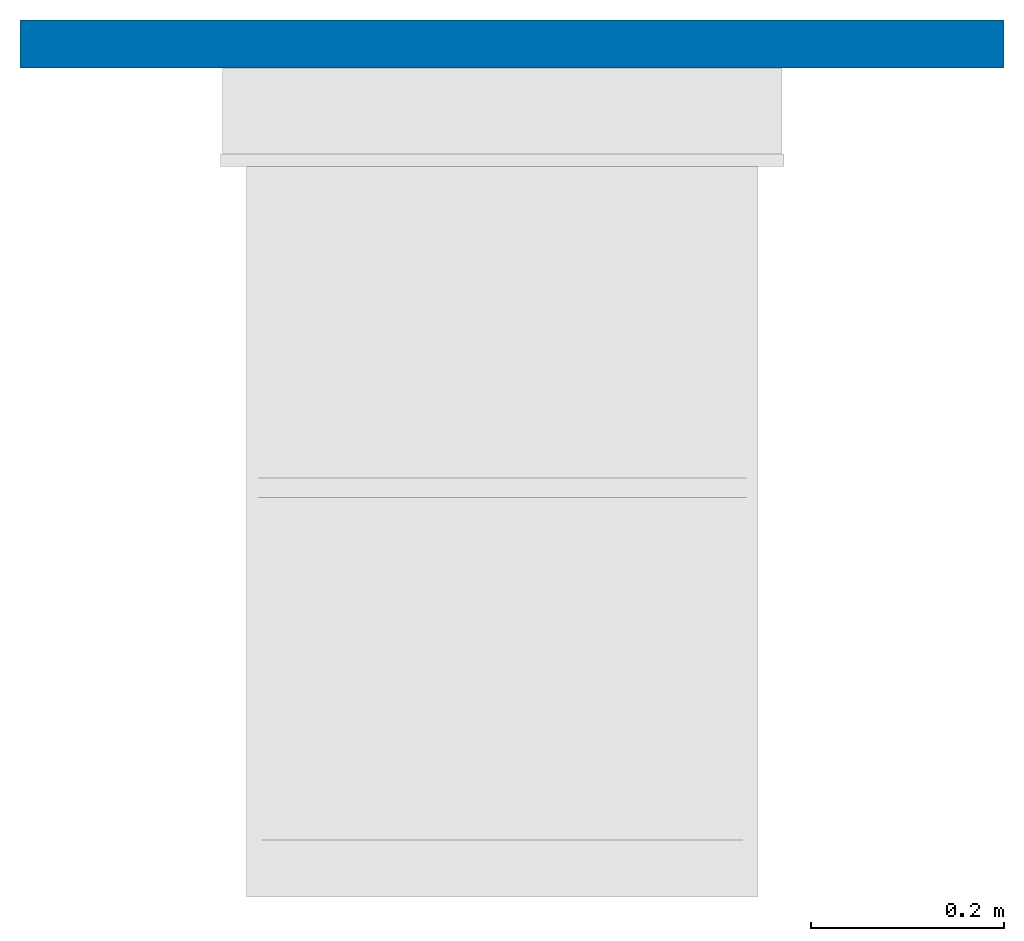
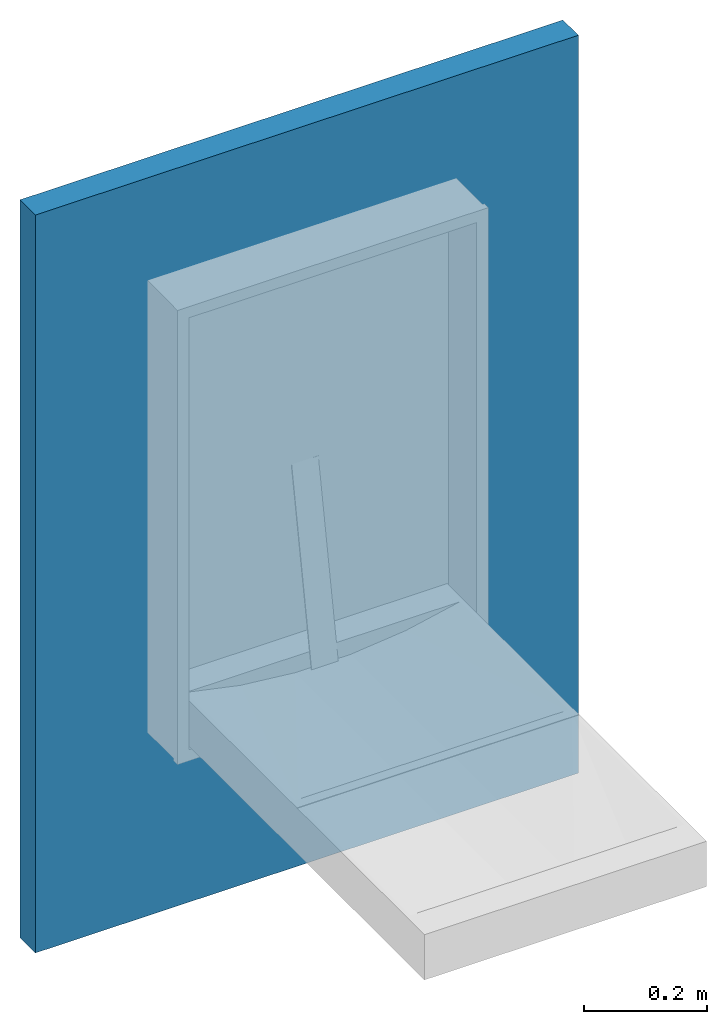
# One storey, part 1 of 2: 1 wall.
"""IFC2X3 building model written with IfcOpenShell, lengths in millimetres."""

from ifc_helpers import new_model, entity, si_unit, converted_unit, derived_unit, direction, frame, frame_2d, origin, place, context, subcontext, project, spatial, rectangle, extrude, material, layer, layer_set, layer_usage, type_object, element, save


model = new_model("IFC2X3")

# Units and contexts
model_context = context("Model", 3, precision=1e-05, world=origin(), true_north=direction((2.0, 6.12303176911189e-17, 1.0)))
context_of_model = context(None, 3, precision=1e-05, world=origin(), true_north=direction((2.0, 6.12303176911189e-17, 1.0)))
body_context = subcontext(model_context, "Body", "Model", "MODEL_VIEW")
ifc_project = project(units=[si_unit("LENGTHUNIT", "METRE", prefix="MILLI"), si_unit("AREAUNIT", "SQUARE_METRE"), si_unit("VOLUMEUNIT", "CUBIC_METRE"), converted_unit("PLANEANGLEUNIT", "DEGREE", entity("IfcRatioMeasure", 0.0174532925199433), si_unit("PLANEANGLEUNIT", "RADIAN"), dimensions=[0, 0, 0, 0, 0, 0, 0]), si_unit("MASSUNIT", "GRAM", prefix="KILO"), si_unit("TIMEUNIT", "SECOND"), si_unit("THERMODYNAMICTEMPERATUREUNIT", "KELVIN"), derived_unit("THERMALTRANSMITTANCEUNIT", [(si_unit("MASSUNIT", "GRAM", prefix="KILO"), 1), (si_unit("THERMODYNAMICTEMPERATUREUNIT", "KELVIN"), -1), (si_unit("TIMEUNIT", "SECOND"), -3)]), derived_unit("VOLUMETRICFLOWRATEUNIT", [(si_unit("LENGTHUNIT", "METRE"), 3), (si_unit("TIMEUNIT", "SECOND"), -1)]), si_unit("POWERUNIT", "WATT")], contexts=[model_context, context_of_model])

# Site, building, storey
site_placement = place(None, origin())
site = spatial("IfcSite", under=ifc_project, at=site_placement, Name="Default", CompositionType="ELEMENT")
building_placement = place(site_placement, origin())
building = spatial("IfcBuilding", under=site, at=building_placement, CompositionType="ELEMENT")
storey_placement = place(building_placement, origin())
storey = spatial("IfcBuildingStorey", under=building, at=storey_placement, Name="Level 1", CompositionType="ELEMENT", Elevation=0.0)

# Wall
ifc_material = material(Name="Default Wall")
ifc_layer = layer(ifc_material, 50.0)
ifc_layer_set = layer_set([ifc_layer], Name="Basic Wall:Wall 1")
ifc_layer_usage = layer_usage(ifc_layer_set, "AXIS2", "NEGATIVE", 25.0)
wall_type = type_object("IfcWallType", Name="Basic Wall:Wall 1", PredefinedType="STANDARD", material=ifc_layer_set)
wall_placement = place(storey_placement, frame((476.179875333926, 3977.69853342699, -797.123145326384)))
element("IfcWallStandardCase", 1, at=wall_placement, inside=storey, type_object=wall_type, material=ifc_layer_usage, Name="Basic Wall:Wall 1:3092", ObjectType="Basic Wall:Wall 1:1494", context=body_context, shape_type="SweptSolid", body=[
    extrude(rectangle(XDim=1020.0, YDim=49.9999999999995, at=frame_2d((510.0, 0.0), x_axis=(-1.0, 0.0))), origin(), (0.0, 0.0, 1.0), 1465.64532146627),
])

save(model, "model.ifc")
